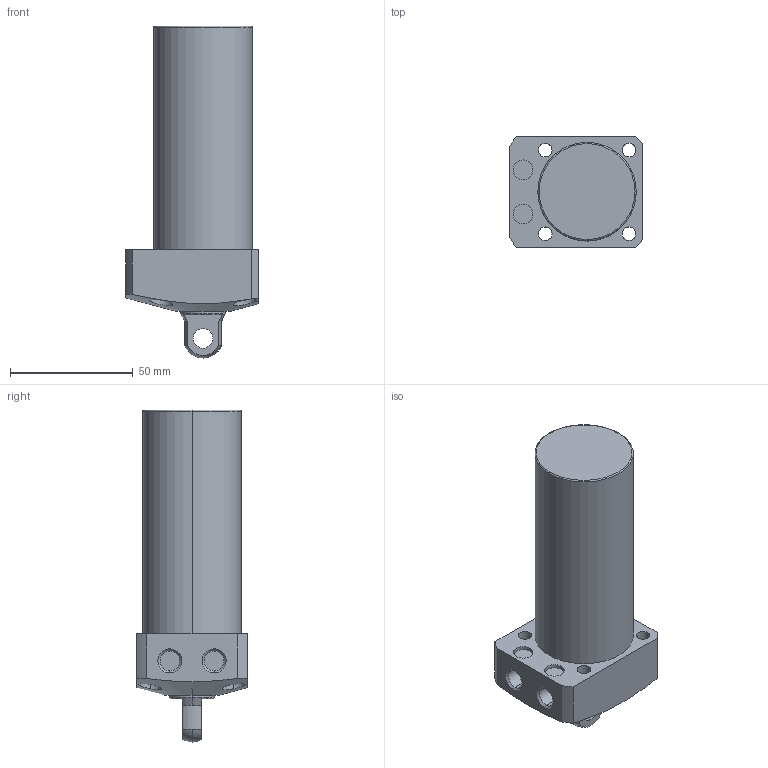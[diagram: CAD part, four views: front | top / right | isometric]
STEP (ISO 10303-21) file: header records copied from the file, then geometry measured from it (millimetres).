
FILE_DESCRIPTION (( 'STEP AP203' ), '1' );
FILE_NAME ('CLL040-CP-065.STEP', '2017-05-17T07:59:06', ( '' ), ( '' ), 'SwSTEP 2.0', 'SolidWorks 2015', '' );
FILE_SCHEMA (( 'CONFIG_CONTROL_DESIGN' ));
Length unit declared in the file: millimetre
Products named in the file (1): CLL040-CP-065
Bounding box: 54 x 45 x 135 mm (x, y, z)
Volume: 165609.3 mm3; surface area: 23448.7 mm2
Topology: 1 solids, 1 shells, 68 faces, 159 edges, 103 vertices
Faces by surface type: cylinder 35, plane 21, cone 8, sphere 2, torus 2
Entity records: 2372 total; most frequent: CARTESIAN_POINT 675, DIRECTION 357, ORIENTED_EDGE 318, EDGE_CURVE 159, AXIS2_PLACEMENT_3D 149, VERTEX_POINT 103, EDGE_LOOP 88, CIRCLE 80
